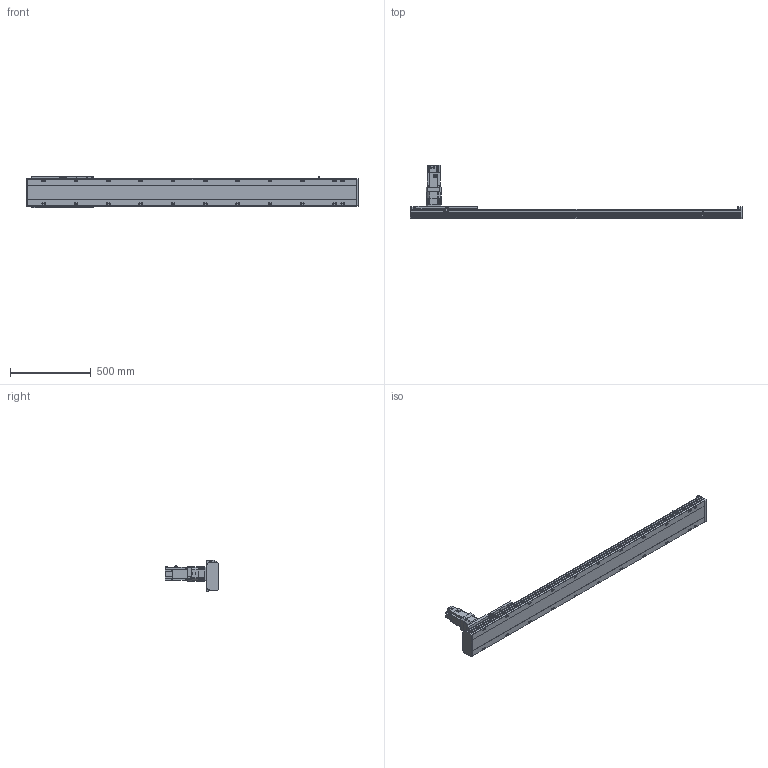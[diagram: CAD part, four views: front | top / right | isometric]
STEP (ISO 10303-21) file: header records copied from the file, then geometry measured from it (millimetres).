
FILE_DESCRIPTION(/* description */ ('STEP AP203'),/* implementation_level */ '2;1');
FILE_NAME(/* name */ 'SHS17A-L13-S1600-BC-T75-C1-N(0)',/* time_stamp */ '2023-03-27T08:57:40+02:00',/* author */ ('License CC BY-ND 4.0'),/* organization */ ('CADENAS'),/* preprocessor_version */ 'ST-DEVELOPER v19.3',/* originating_system */ 'PARTsolutions',/* authorisation */ ' ');
FILE_SCHEMA (('CONFIG_CONTROL_DESIGN'));
Length unit declared in the file: millimetre
Products named in the file (7): SHS17A-L13-S1600-BC-T75-C1-N(0); PSC140-sensor; SHS17A-S1600(0)_body2; T75-p1; SHS17A-S1600_body3; SHS17A-S1600-C1(0)_slider; SHS17A-S1600-C1(0)_body
Assembly tree (13 placements, depth 2):
  SHS17A-L13-S1600-BC-T75-C1-N(0)
    PSC140-sensor  x3
    SHS17A-S1600(0)_body2  x6
    T75-p1
    SHS17A-S1600_body3
    SHS17A-S1600-C1(0)_slider
    SHS17A-S1600-C1(0)_body
Bounding box: 2054 x 333.8 x 193.4 mm (x, y, z)
Volume: 15608687 mm3; surface area: 1846138.6 mm2
Topology: 13 solids, 13 shells, 2008 faces, 5086 edges, 3315 vertices
Faces by surface type: plane 1312, cylinder 617, cone 76, torus 3
Full cylindrical faces by diameter (mm): 2.8 x3, 4.134 x24, 4.5 x2, 4.6 x3, 4.917 x15, 5.5 x48, 6 x7, 6.5 x24, 6.647 x30, 6.8 x9, 8 x3, 8.5 x22, 10 x28, 11 x4, 14 x22, 22 x1, 24 x1, 24.2 x1, 28 x1, 28.2 x1, 28.8 x1, 29.8 x1, 48.542 x1, 68 x1, 70 x1, 78 x1, 80 x2
Entity records: 36850 total; most frequent: CARTESIAN_POINT 7018, DIRECTION 6073, ORIENTED_EDGE 5812, EDGE_CURVE 2906, AXIS2_PLACEMENT_3D 2120, VERTEX_POINT 2041, LINE 1833, VECTOR 1833
